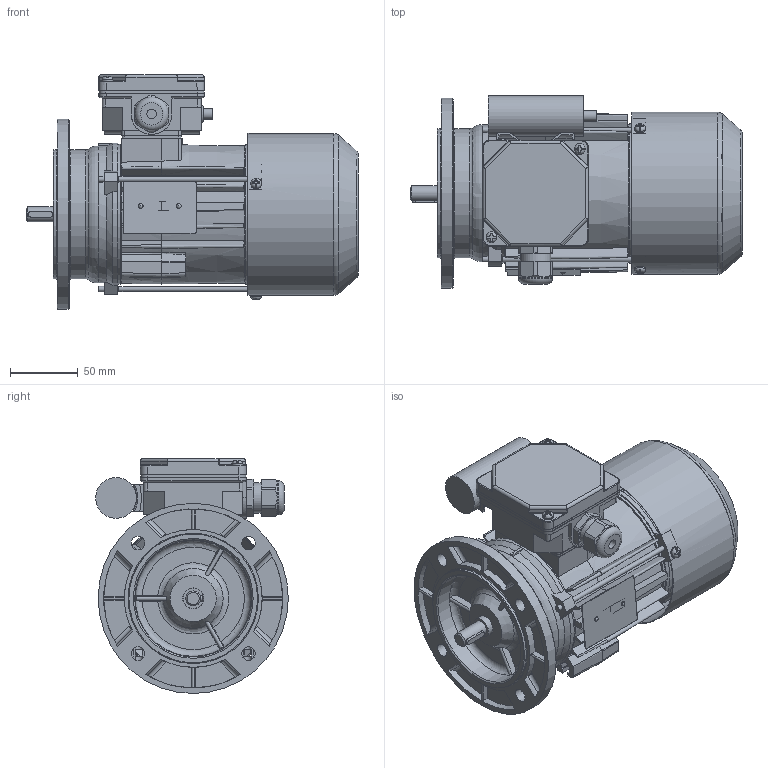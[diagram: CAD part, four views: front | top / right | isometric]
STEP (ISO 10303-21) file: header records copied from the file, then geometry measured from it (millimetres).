
FILE_DESCRIPTION(/* description */ ('Unknown'),/* implementation_level */ '2;1');
FILE_NAME(/* name */ '3SSIEK63-4B',/* time_stamp */ '2024-06-17T11:21:40+02:00',/* author */ ('Unknown'),/* organization */ ('Unknown'),/* preprocessor_version */ 'ST-DEVELOPER v16.7',/* originating_system */ 'Solid Edge',/* authorisation */ 'Unknown');
FILE_SCHEMA (('AUTOMOTIVE_DESIGN {1 0 10303 214 3 1 1}'));
Products named in the file (1): Czêœæ14
Bounding box: 244.47 x 141.82 x 173 mm (x, y, z)
Volume: 630256.2 mm3; surface area: 365354 mm2
Topology: 2 solids, 2 shells, 1830 faces, 5204 edges, 3397 vertices
Faces by surface type: plane 947, cylinder 541, torus 118, cone 112, bspline 91, sphere 21
Full cylindrical faces by diameter (mm): 2 x1, 2.4 x2, 3 x1, 3.7 x7, 3.8 x1, 4 x8, 4.5 x5, 4.6 x1, 4.8 x2, 5 x2, 6.5 x1, 7 x4, 7.998 x1, 8 x6, 10 x4, 10.998 x1, 12.897 x1, 13.097 x1, 14.997 x2, 15.4 x2, 18.996 x2, 19.496 x1, 19.996 x1, 20.096 x1, 21.516 x4, 22.3 x1, 25 x1, 28 x2, 28.48 x4, 29.994 x1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
Entity records: 74738 total; most frequent: CARTESIAN_POINT 16335, ORIENTED_EDGE 9742, DIRECTION 9032, EDGE_CURVE 4871, AXIS2_PLACEMENT_3D 3327, VERTEX_POINT 3273, LINE 2378, VECTOR 2378
